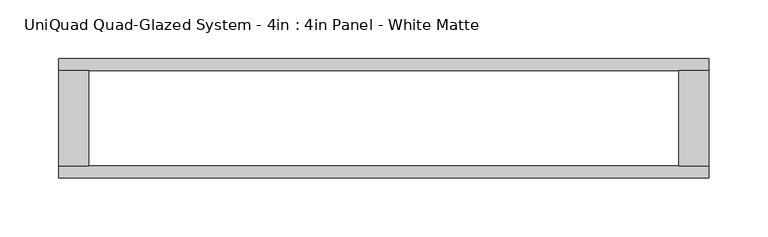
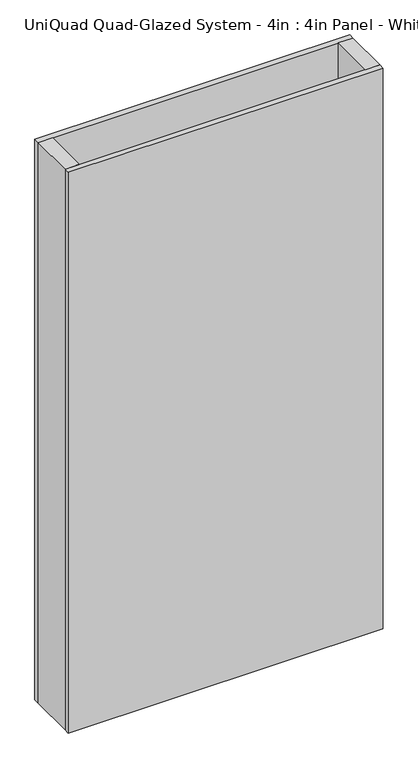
"""IFC4 building model written with IfcOpenShell, lengths in millimetres: plate geometry, UniQuad Quad-Glazed System - 4in : 4in Panel - White Matte."""

from ifc_helpers import new_model, si_unit, origin, origin_with_axes, place, context, project, spatial, polyline, outline, extrude, source, transform, mapped, element, save


def uniquad_quad_glazed_system_4in_4in_panel_white_matte_e51044c1(model_context):
    return source(origin(), model_context, "Body", "SweptSolid", [
        extrude(outline(polyline([(-276.8186206, 40.7924), (-251.4186206, 40.7924), (-251.4186206, -40.7924), (-276.8186206, -40.7924), (-276.8186206, 40.7924)])), origin_with_axes(), (0.0, 0.0, 1.0), 1041.4),
        extrude(outline(polyline([(276.8186206, 40.7924), (276.8186206, -40.7924), (251.4186206, -40.7924), (251.4186206, 40.7924), (276.8186206, 40.7924)])), origin_with_axes(), (0.0, 0.0, 1.0), 1041.4),
        extrude(outline(polyline([(276.8186206, -40.7924), (276.8186206, -50.8), (-276.8186206, -50.8), (-276.8186206, -40.7924), (276.8186206, -40.7924)])), origin_with_axes(), (0.0, 0.0, 1.0), 1041.4),
        extrude(outline(polyline([(276.8186206, 50.8), (276.8186206, 40.7924), (-276.8186206, 40.7924), (-276.8186206, 50.8), (276.8186206, 50.8)])), origin_with_axes(), (0.0, 0.0, 1.0), 1041.4),
    ])


if __name__ == "__main__":
    model = new_model("IFC4")
    model_context = context("Model", 3, world=origin())
    ifc_project = project(units=[si_unit("LENGTHUNIT", "METRE", prefix="MILLI")], contexts=[model_context])
    site = spatial("IfcSite", under=ifc_project)
    building = spatial("IfcBuilding", under=site)
    placement = place(None, origin())
    uniquad_quad_glazed_system_4in_4in_panel_white_matte_shape = uniquad_quad_glazed_system_4in_4in_panel_white_matte_e51044c1(model_context)
    element("IfcPlate", 1, ObjectType="UniQuad Quad-Glazed System - 4in : 4in Panel - White Matte", at=placement, inside=building, context=model_context, shape_type="MappedRepresentation", body=[
        mapped(uniquad_quad_glazed_system_4in_4in_panel_white_matte_shape, transform((0.0, 0.0, 0.0), x_axis=(1.0, 0.0, 0.0), y_axis=(0.0, 1.0, 0.0), z_axis=(0.0, 0.0, 1.0))),
    ])
    save(model, "model.ifc")
